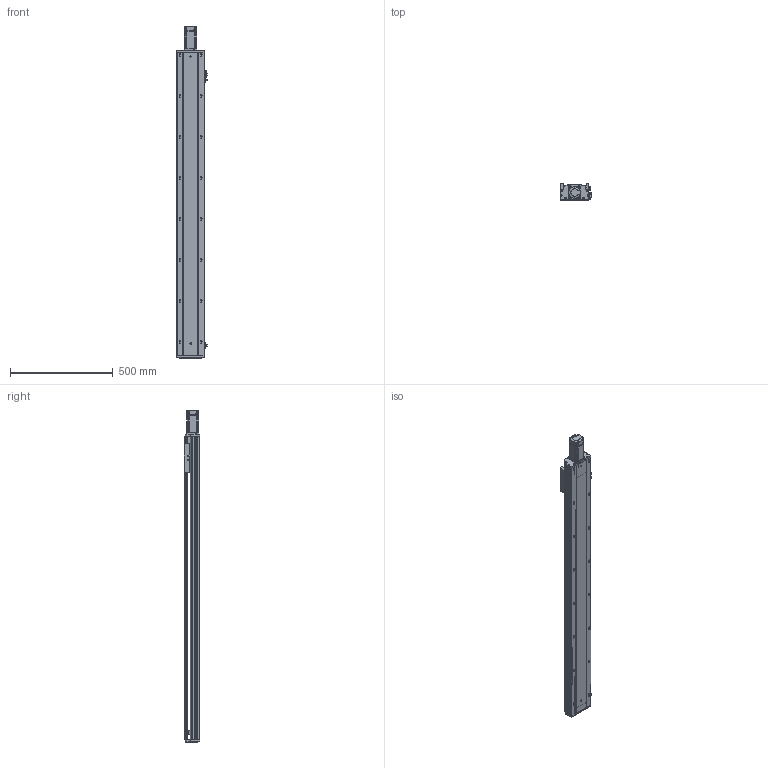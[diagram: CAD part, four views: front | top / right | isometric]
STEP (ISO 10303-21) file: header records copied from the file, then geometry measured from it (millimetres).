
FILE_DESCRIPTION (( 'STEP AP203' ), '1' );
FILE_NAME ('RY140Q-L2010-1000-MK.SLDASM_1250.step', '2021-05-27T07:34:43', ( '盈信电脑' ), ( '东莞市道滘镇水果街19号' ), 'SwSTEP 2.0', 'SolidWorks 2016', '' );
FILE_SCHEMA (( 'CONFIG_CONTROL_DESIGN' ));
Length unit declared in the file: millimetre
Products named in the file (13): 侂狟400W侜督萇儂; 滅袉蝶18-10; 15; 覜茼ん672; RY140Q萇儂傷盓傅釱FK12(80.5酗M5); 滅袉蝶18-15; RY140Q臏賑輸(20佪裝-J; RY120外置感应片(140共用）; RY140綴裔啣; RY140Q-1000-MK倰第菁釱_1250; RY140ヶ裔啣; RY140Q-L2010-1000-MK.SLDASM_1250; RY140Q-1000-MK倰第奻裔啣_1250
Assembly tree (15 placements, depth 3):
  RY140Q-L2010-1000-MK.SLDASM_1250
    RY140Q-1000-MK倰第菁釱_1250
    RY140Q臏賑輸(20佪裝-J
    RY140Q-1000-MK倰第奻裔啣_1250
    RY140ヶ裔啣
    侂狟400W侜督萇儂
      15
    RY140綴裔啣
    覜茼ん672  x3
    RY120外置感应片(140共用）
    RY140Q萇儂傷盓傅釱FK12(80.5酗M5)
    滅袉蝶18-10
    滅袉蝶18-15  x2
Bounding box: 148.7 x 78 x 1619.5 mm (x, y, z)
Volume: 4432867.3 mm3; surface area: 1648979.6 mm2
Topology: 14 solids, 14 shells, 2184 faces, 6039 edges, 3841 vertices
Faces by surface type: plane 1082, cylinder 786, cone 231, bspline 85
Entity records: 71847 total; most frequent: CARTESIAN_POINT 17156, ORIENTED_EDGE 11298, DIRECTION 10801, EDGE_CURVE 5649, VERTEX_POINT 3701, AXIS2_PLACEMENT_3D 3607, LINE 3587, VECTOR 3587
